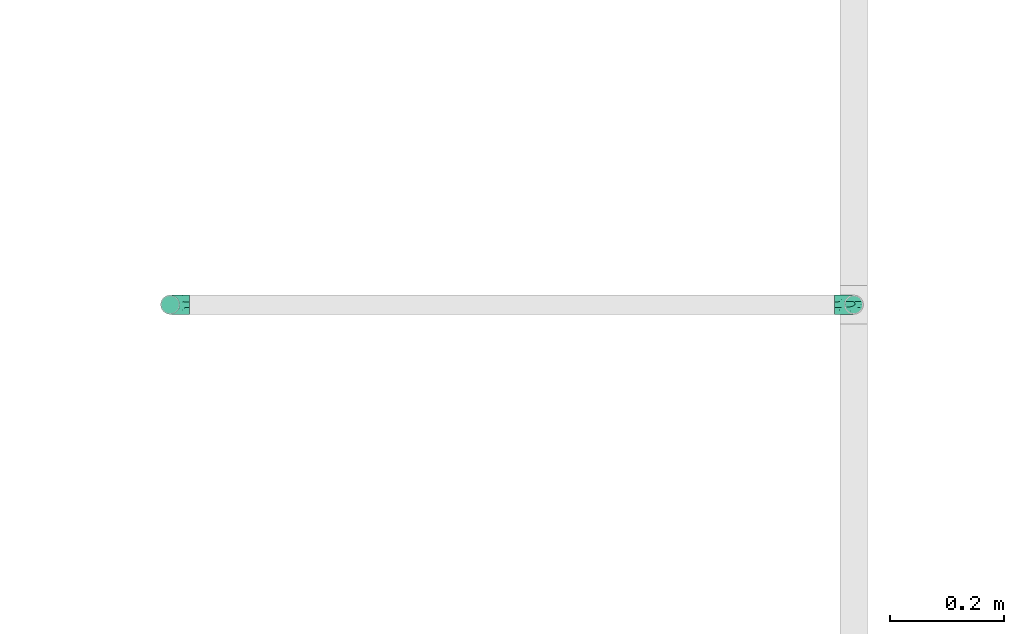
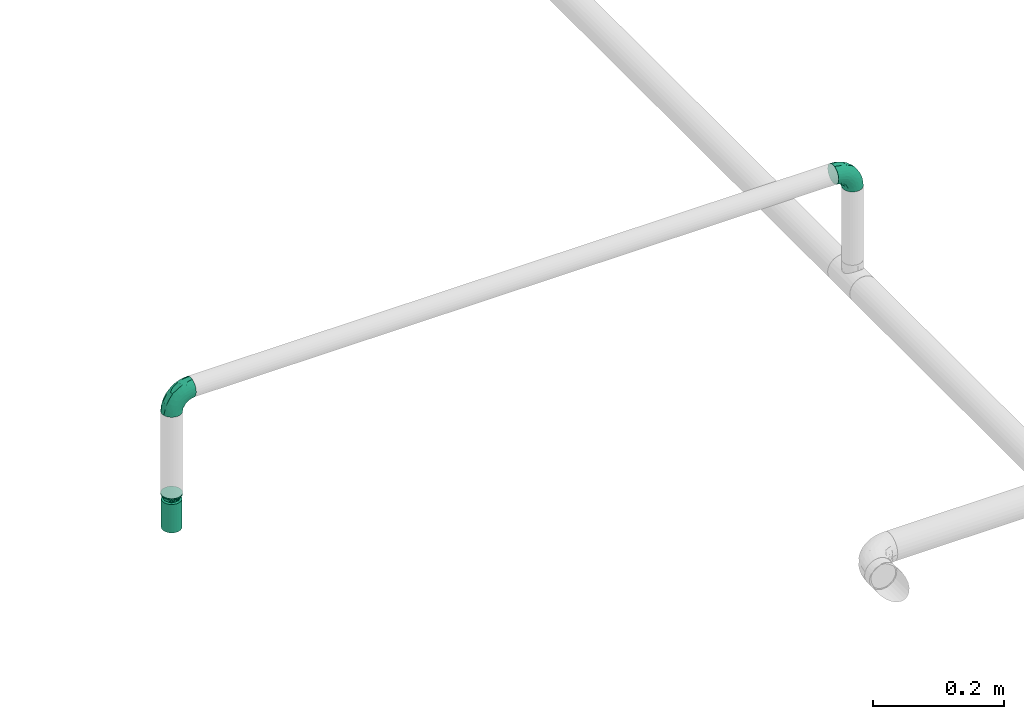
# One storey, part 50 of 157: 3 flow fittings, 1 flow terminal.
"""IFC2X3 building model written with IfcOpenShell, lengths in millimetres."""

import ifcopenshell
import ifcopenshell.guid

model = None  # the IFC model being written
_history = None  # IfcOwnerHistory: only IFC2X3 demands one
_inside = {}  # id of a spatial element -> (the spatial element, [elements in it])
_under = {}  # id of a project, library or spatial element -> (it, [spatial elements below it])
_declared = {}  # id of a project -> (the project, [libraries it declares])
_typed = {}  # id of a type object -> (the type object, [elements of that type])
_made_of = {}  # id of a material, layer set ... -> (it, [elements and type objects made of it])


def new_model(schema):
    """Start an empty IFC model of exactly this schema.

    Asked for "IFC4X3", IfcOpenShell would pick the latest addendum, in which some entities
    have other attributes; the version numbers below select the first issue.
    IFC2X3 requires an IfcOwnerHistory on every rooted entity: one is made here for all.
    """
    global model, _history
    if schema == "IFC4X3":
        model = ifcopenshell.file(schema_version=(4, 3, 0, 0))
    else:
        model = ifcopenshell.file(schema=schema)
    _inside.clear()
    _under.clear()
    _declared.clear()
    _typed.clear()
    _made_of.clear()
    _history = None
    if model.schema == "IFC2X3":
        org = make("IfcOrganization", Name="unknown")
        user = make(
            "IfcPersonAndOrganization",
            ThePerson=make("IfcPerson", FamilyName="unknown"),
            TheOrganization=org,
        )
        app = make(
            "IfcApplication",
            ApplicationDeveloper=org,
            Version="unknown",
            ApplicationFullName="unknown",
            ApplicationIdentifier="unknown",
        )
        _history = make(
            "IfcOwnerHistory",
            OwningUser=user,
            OwningApplication=app,
            ChangeAction="ADDED",
            CreationDate=0,
        )
    return model


def make(cls, **values):
    """One entity of the class cls with the attributes given. An attribute that is None is left unset."""
    return model.create_entity(
        cls, **{name: value for name, value in values.items() if value is not None}
    )


def entity(cls, *values):
    """Any entity or typed value of the class cls, its attributes in the order of the schema. None: left unset."""
    e = model.create_entity(cls)
    for i, value in enumerate(values):
        if value is not None:
            e[i] = value
    return e


def rooted(cls, **values):
    """An entity with a GlobalId (a new one), such as an element, a storey or a relation."""
    return make(cls, GlobalId=ifcopenshell.guid.new(), OwnerHistory=_history, **values)


def si_unit(unit_type, name, prefix=None):
    """IfcSIUnit, for example si_unit("LENGTHUNIT", "METRE", prefix="MILLI")."""
    return make("IfcSIUnit", UnitType=unit_type, Prefix=prefix, Name=name)


def converted_unit(unit_type, name, factor, base, dimensions=None, offset=None):
    """IfcConversionBasedUnit, such as the inch: factor (a typed value) times the base unit."""
    return make(
        "IfcConversionBasedUnit"
        if offset is None
        else "IfcConversionBasedUnitWithOffset",
        ConversionOffset=offset,
        Dimensions=None
        if dimensions is None
        else entity("IfcDimensionalExponents", *dimensions),
        UnitType=unit_type,
        Name=name,
        ConversionFactor=make(
            "IfcMeasureWithUnit", ValueComponent=factor, UnitComponent=base
        ),
    )


def derived_unit(unit_type, elements):
    """IfcDerivedUnit: a product of units, each with its exponent."""
    return make(
        "IfcDerivedUnit",
        Elements=[
            make("IfcDerivedUnitElement", Unit=unit, Exponent=power)
            for unit, power in elements
        ],
        UnitType=unit_type,
    )


def assignment(units):
    """IfcUnitAssignment: the units of a project."""
    return None if units is None else make("IfcUnitAssignment", Units=units)


def point(xyz):
    """IfcCartesianPoint."""
    return None if xyz is None else make("IfcCartesianPoint", Coordinates=xyz)


def direction(xyz):
    """IfcDirection."""
    return None if xyz is None else make("IfcDirection", DirectionRatios=xyz)


def frame(location, z_axis=None, x_axis=None):
    """IfcAxis2Placement3D, a coordinate frame: its origin and axes. An axis left out is left unset."""
    return make(
        "IfcAxis2Placement3D",
        Location=point(location),
        Axis=direction(z_axis),
        RefDirection=direction(x_axis),
    )


def origin_with_axes():
    """The frame at (0, 0, 0) with the z axis (0, 0, 1) and the x axis (1, 0, 0) written out."""
    return frame((0.0, 0.0, 0.0), z_axis=(0.0, 0.0, 1.0), x_axis=(1.0, 0.0, 0.0))


def place(relative_to, where):
    """IfcLocalPlacement: puts the frame where relative to a parent placement (None: the world)."""
    return make(
        "IfcLocalPlacement", PlacementRelTo=relative_to, RelativePlacement=where
    )


def context(
    kind, dimensions, precision=None, world=None, true_north=None, identifier=None
):
    """IfcGeometricRepresentationContext, for example the 3D "Model" context."""
    return make(
        "IfcGeometricRepresentationContext",
        ContextIdentifier=identifier,
        ContextType=kind,
        CoordinateSpaceDimension=dimensions,
        Precision=precision,
        WorldCoordinateSystem=world,
        TrueNorth=true_north,
    )


def subcontext(parent, identifier, kind, view, scale=None):
    """IfcGeometricRepresentationSubContext, for example "Body" below "Model"."""
    return make(
        "IfcGeometricRepresentationSubContext",
        ContextIdentifier=identifier,
        ContextType=kind,
        ParentContext=parent,
        TargetScale=scale,
        TargetView=view,
    )


def project(units=None, contexts=None):
    """IfcProject with its units and contexts."""
    return rooted(
        "IfcProject",
        Name="project",
        RepresentationContexts=contexts,
        UnitsInContext=assignment(units),
    )


def spatial(cls, under=None, at=None, **own):
    """A site, building, storey or space (cls), placed at a placement, below another one or the project."""
    s = rooted(cls, ObjectPlacement=at, **own)
    if under is not None:
        _under.setdefault(under.id(), (under, []))[1].append(s)
    return s


def faces_of(points, faces, orient=None, outer=None):
    """IfcFace entities. A face is a list of loops; a loop is a list of indices into points, from 0.

    orient and outer hold one flag for each loop. By default every Orientation is true, the
    first loop of a face is its IfcFaceOuterBound and the others are IfcFaceBound.
    """
    made = []
    for i, loops in enumerate(faces):
        bounds = []
        for j, loop in enumerate(loops):
            is_outer = j == 0 if outer is None else outer[i][j]
            bounds.append(
                make(
                    "IfcFaceOuterBound" if is_outer else "IfcFaceBound",
                    Bound=make("IfcPolyLoop", Polygon=[points[k] for k in loop]),
                    Orientation=True if orient is None else orient[i][j],
                )
            )
        made.append(make("IfcFace", Bounds=bounds))
    return made


def open_shell(faces, orient=None, outer=None):
    """The faces of one IfcOpenShell. surface_model builds it on its shared points."""
    return ("IfcOpenShell", faces, orient, outer)


def surface_model(cls, points, shells):
    """IfcFaceBasedSurfaceModel or IfcShellBasedSurfaceModel (cls): surfaces that need not close."""
    shared = [point(p) for p in points]
    made = [make(c, CfsFaces=faces_of(shared, fs, o, b)) for c, fs, o, b in shells]
    if cls == "IfcFaceBasedSurfaceModel":
        return make(cls, FbsmFaces=made)
    return make(cls, SbsmBoundary=made)


def shape(context_of_items, identifier, shape_type, items):
    """IfcShapeRepresentation: the items that make up one representation, for example the "Body"."""
    return make(
        "IfcShapeRepresentation",
        ContextOfItems=context_of_items,
        RepresentationIdentifier=identifier,
        RepresentationType=shape_type,
        Items=items,
    )


def source(mapping_origin, context_of_items, identifier, shape_type, items):
    """IfcRepresentationMap: a shape defined once, which mapped items show again and again."""
    return make(
        "IfcRepresentationMap",
        MappingOrigin=mapping_origin,
        MappedRepresentation=shape(context_of_items, identifier, shape_type, items),
    )


def transform(
    local_origin,
    x_axis=None,
    y_axis=None,
    z_axis=None,
    scale=None,
    scale2=None,
    scale3=None,
    uniform=True,
):
    """IfcCartesianTransformationOperator3D, or its non-uniform kind. x_axis, y_axis, z_axis: its Axis1, 2, 3."""
    if uniform:
        return make(
            "IfcCartesianTransformationOperator3D",
            Axis1=direction(x_axis),
            Axis2=direction(y_axis),
            LocalOrigin=point(local_origin),
            Scale=scale,
            Axis3=direction(z_axis),
        )
    return make(
        "IfcCartesianTransformationOperator3DnonUniform",
        Axis1=direction(x_axis),
        Axis2=direction(y_axis),
        LocalOrigin=point(local_origin),
        Scale=scale,
        Axis3=direction(z_axis),
        Scale2=scale2,
        Scale3=scale3,
    )


def mapped(mapping_source, mapping_target):
    """IfcMappedItem: shows the shape of a source again, moved by a transform."""
    return make(
        "IfcMappedItem", MappingSource=mapping_source, MappingTarget=mapping_target
    )


def made_of(thing, what):
    """Note that an element or type object is made of a material, layer set ...; save() writes the relation."""
    if what is not None:
        _made_of.setdefault(what.id(), (what, []))[1].append(thing)
    return thing


def type_object(cls, material=None, **own):
    """A type object (cls), such as IfcWallType, which elements share."""
    return made_of(rooted(cls, **own), material)


def element(
    cls,
    number,
    at=None,
    inside=None,
    cuts=None,
    type_object=None,
    material=None,
    context=None,
    identifier="Body",
    shape_type=None,
    held_by="IfcProductDefinitionShape",
    body=None,
    shapes=None,
    **own,
):
    """One element of the class cls, such as IfcWall. Its Tag is "e" and its number.

    at: its placement. inside: the storey or other place that contains it. cuts: it is an
    opening in that element (IfcRelVoidsElement). A single representation is given by context,
    identifier, shape_type and body (its items); several are given by shapes. held_by: the class
    of the entity that holds the representations. save() writes the other relations.
    """
    e = rooted(cls, Tag="e%d" % number, ObjectPlacement=at, **own)
    if body is not None:
        shapes = [shape(context, identifier, shape_type, body)]
    if shapes is not None:
        e.Representation = make(held_by, Representations=shapes)
    if inside is not None:
        _inside.setdefault(inside.id(), (inside, []))[1].append(e)
    if cuts is not None:
        rooted(
            "IfcRelVoidsElement", RelatingBuildingElement=cuts, RelatedOpeningElement=e
        )
    if type_object is not None:
        _typed.setdefault(type_object.id(), (type_object, []))[1].append(e)
    return made_of(e, material)


def aggregate(whole, parts):
    """IfcRelAggregates: a whole, such as a stair, and the parts it consists of."""
    return rooted("IfcRelAggregates", RelatingObject=whole, RelatedObjects=parts)


def save(model, path):
    """Write the relations noted so far, then the file.

    IfcRelAggregates (storeys below a building ...), IfcRelContainedInSpatialStructure (elements
    in a storey), IfcRelDefinesByType, IfcRelAssociatesMaterial and IfcRelDeclares: one each for
    every whole, place, type object, material and project.
    """
    for whole, parts in _under.values():
        aggregate(whole, parts)
    for where, things in _inside.values():
        rooted(
            "IfcRelContainedInSpatialStructure",
            RelatedElements=things,
            RelatingStructure=where,
        )
    for kind, things in _typed.values():
        rooted("IfcRelDefinesByType", RelatedObjects=things, RelatingType=kind)
    for what, things in _made_of.values():
        rooted("IfcRelAssociatesMaterial", RelatedObjects=things, RelatingMaterial=what)
    for by, libraries in _declared.values():
        rooted("IfcRelDeclares", RelatingContext=by, RelatedDefinitions=libraries)
    model.write(path)


model = new_model("IFC2X3")

# Units and contexts
model_context = context("Model", 3, precision=0.01, world=frame((0.0, 4.29681676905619e-09, 0.0)), true_north=direction((4.01073788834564e-13, 1.0)))
plan_context = context("Plan", 3, precision=0.01, world=frame((0.0, 4.29681676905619e-09, 0.0)), true_north=direction((4.01073788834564e-13, 1.0)))
body_context = subcontext(model_context, "Body", "Model", "MODEL_VIEW")
ifc_project = project(units=[converted_unit("PLANEANGLEUNIT", "DEGREE", entity("IfcPositiveLengthMeasure", 0.0174532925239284), si_unit("PLANEANGLEUNIT", "RADIAN"), dimensions=[0, 0, 0, 0, 0, 0, 0]), si_unit("AREAUNIT", "SQUARE_METRE"), si_unit("LENGTHUNIT", "METRE", prefix="MILLI"), si_unit("MASSUNIT", "GRAM", prefix="KILO"), si_unit("POWERUNIT", "WATT"), si_unit("PRESSUREUNIT", "PASCAL"), si_unit("FORCEUNIT", "NEWTON", prefix="KILO"), si_unit("ELECTRICCURRENTUNIT", "AMPERE"), si_unit("THERMODYNAMICTEMPERATUREUNIT", "DEGREE_CELSIUS"), si_unit("TIMEUNIT", "SECOND"), si_unit("VOLUMEUNIT", "CUBIC_METRE"), derived_unit("LINEARVELOCITYUNIT", [(si_unit("LENGTHUNIT", "METRE"), 1), (si_unit("TIMEUNIT", "SECOND"), -1)]), derived_unit("VOLUMETRICFLOWRATEUNIT", [(si_unit("VOLUMEUNIT", "CUBIC_METRE"), 1), (si_unit("TIMEUNIT", "SECOND"), -1)]), derived_unit("THERMALTRANSMITTANCEUNIT", [(si_unit("POWERUNIT", "WATT"), 1), (si_unit("THERMODYNAMICTEMPERATUREUNIT", "KELVIN"), -1), (si_unit("AREAUNIT", "SQUARE_METRE"), -1)])], contexts=[model_context, plan_context])

# Site, building, storey
site_placement = place(None, frame((0.0, -4.29681676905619e-09, 0.0), z_axis=(0.0, 0.0, 1.0), x_axis=(1.0, 0.0, 0.0)))
site = spatial("IfcSite", under=ifc_project, at=site_placement, CompositionType="ELEMENT")
building_placement = place(site_placement, frame((0.0, 4.29681676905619e-09, 0.0), z_axis=(0.0, 0.0, 1.0), x_axis=(1.0, 0.0, 0.0)))
building = spatial("IfcBuilding", under=site, at=building_placement, Name="mc-building", CompositionType="ELEMENT")
storey_placement = place(building_placement, frame((0.0, 0.0, 204000.0), z_axis=(0.0, 0.0, 1.0), x_axis=(1.0, 0.0, 0.0)))
storey = spatial("IfcBuildingStorey", under=building, at=storey_placement, Name="Nivå D", CompositionType="ELEMENT", Elevation=204000.0)

# Flow fittings
pipe_fitting_type_1 = type_object("IfcPipeFittingType", Name="magi_pipe_fe_elbow_short_001", PredefinedType="BEND")
shared_shape_1 = source(origin_with_axes(), body_context, "Body", "SurfaceModel", [
    surface_model("IfcShellBasedSurfaceModel", [(-33.8, 8.45, -14.63583), (-33.8, 4.37404, -16.32415), (-33.8, 11.9501, -11.9501), (-33.8, -11.9501, -11.9501), (-33.8, -14.63583, -8.45), (-33.8, -8.45, -14.63583), (-33.8, 0.0, -16.9), (-33.8, -4.37404, -16.32415), (-33.8, -4.37404, 16.32415), (-33.8, 0.0, 16.9), (-33.8, -8.45, 14.63583), (-33.8, 16.32415, -4.37404), (-33.8, 14.63583, -8.45), (-33.8, -16.32415, -4.37404), (-33.8, -16.9, 0.0), (-33.8, -16.32415, 4.37404), (-33.8, 11.9501, 11.9501), (-33.8, 14.63583, 8.45), (-33.8, 16.32415, 4.37404), (-33.8, 4.37404, 16.32415), (-33.8, 8.45, 14.63583), (-33.8, -14.63583, 8.45), (-33.8, -11.9501, 11.9501), (-33.8, 16.9, 0.0), (-11.9501, 33.8, -11.9501), (0.0, 33.8, -16.9), (-4.37404, 33.8, -16.32415), (-8.45, 33.8, -14.63583), (-14.63583, 33.8, -8.45), (-16.32415, 33.8, -4.37404), (14.63583, 33.8, -8.45), (8.45, 33.8, 14.63583), (16.32415, 33.8, -4.37404), (8.45, 33.8, -14.63583), (11.9501, 33.8, -11.9501), (4.37404, 33.8, -16.32415), (16.32415, 33.8, 4.37404), (16.9, 33.8, 0.0), (-11.9501, 33.8, 11.9501), (-16.32415, 33.8, 4.37404), (-14.63583, 33.8, 8.45), (-8.45, 33.8, 14.63583), (-4.37404, 33.8, 16.32415), (11.9501, 33.8, 11.9501), (14.63583, 33.8, 8.45), (0.0, 33.8, 16.9), (4.37404, 33.8, 16.32415), (-16.9, 33.8, 0.0), (-24.79389, -13.12945, 9.48721), (-22.19287, -9.75018, 12.59315), (-24.09897, -14.97035, 0.0), (-14.93934, -10.76256, 8.5297), (-22.46095, -14.75051, 5.27077), (14.75051, 22.46094, 5.27077), (11.9251, 13.23888, 4.33236), (13.04069, 14.39795, 0.0), (7.71387, 13.68847, 11.55891), (9.75018, 22.19287, 12.59315), (4.10169, 13.0571, 14.04018), (-24.84007, -6.39063, 15.2048), (-25.81779, -2.23879, 16.61097), (-23.66549, 2.59054, 16.87119), (-26.50418, 14.06512, 11.08152), (-24.21253, 17.66365, 7.72657), (-29.58514, 15.86957, 7.00283), (-6.17382, -7.5455, 0.0), (-13.23888, -11.9251, 4.33236), (-14.39795, -13.04069, 0.0), (-17.81434, 18.87373, 11.97104), (-6.30846, 29.15138, 15.82987), (-2.31622, 25.28002, 16.85849), (-29.23923, 10.23435, 13.77053), (-1.45439, -2.85688, 7.61475), (-0.28326, 0.34872, 10.09509), (-5.74484, -4.04709, 10.4122), (-4.41137, 11.31918, 16.59407), (-8.39727, 3.10034, 15.7812), (-1.72649, 9.1306, 15.53089), (-17.39909, 24.75344, 7.64977), (-26.19233, 20.0512, 0.0), (-28.14518, 17.29657, 4.25857), (-26.05147, 6.6281, 15.96447), (-5.87354, 16.61944, 16.86968), (-12.51807, 12.51807, 16.48937), (-10.06312, 7.38516, 16.81295), (-3.01882, 3.01882, 13.81718), (-13.0571, -4.10169, 14.04018), (-16.82553, -0.15166, 16.38038), (10.76256, 14.93934, 8.5297), (13.12945, 24.79389, 9.48721), (6.39063, 24.84007, 15.2048), (2.23879, 25.81779, 16.61097), (-13.68847, -7.71387, 11.55891), (14.97035, 24.09897, 0.0), (-7.30894, 22.89991, 16.09489), (-10.67958, 26.17414, 14.008), (-12.78295, 18.26924, 15.06066), (-13.88562, 22.45231, 12.93244), (-18.04944, 15.16501, 14.04434), (-23.11658, 20.08178, 4.02986), (-21.84989, 21.84989, 0.0), (-18.55817, 25.48277, 3.93065), (-13.95142, 26.94732, 11.03289), (-18.57098, 7.23906, 16.59756), (-16.58335, 4.14122, 16.89279), (-17.96666, 11.46709, 15.63151), (-9.84453, 17.54304, 16.18938), (0.15166, 16.82553, 16.38038), (-23.27207, 11.47201, 14.23154), (3.84842, 5.86994, 10.70473), (-8.0212, -7.54413, 7.93275), (1.00345, -2.19508, 4.57414), (5.13203, 3.01004, 5.90201), (5.24161, 1.7543, 2.53265), (8.70457, 7.04947, 3.99182), (-20.0512, 26.19233, 0.0), (8.4852, 8.76699, 7.09296), (-4.55488, -6.72064, 4.90681), (2.05031, -2.05031, 0.0), (7.5455, 6.17382, 0.0), (-26.75399, 2.1369, -16.845), (-14.61995, 24.73803, -11.27736), (-28.45274, -13.45335, -9.81895), (-26.00469, 6.63555, -15.96645), (-23.06726, 20.04573, -4.26202), (-13.80647, -4.26506, -14.17873), (-14.67501, -0.21081, -16.07388), (-6.7902, -0.2828, -13.8478), (-24.53586, 11.08096, -14.13417), (-26.72048, 14.00837, -11.05776), (10.0967, 24.44989, -12.75976), (5.83237, 21.40218, -15.03047), (6.66249, 28.54238, -15.38093), (-20.38182, 15.48705, -12.74596), (12.53268, 21.23441, -9.15363), (12.54494, 15.67504, -5.54878), (9.7522, 12.89279, -8.66343), (-15.65186, 19.64213, -13.01327), (-12.03528, 20.66498, -14.67665), (-15.61907, 15.61906, -14.83879), (-25.56551, -15.26206, 0.0), (-24.65452, -15.12934, -5.50955), (13.45335, 28.45274, -9.81895), (15.12934, 24.65452, -5.50955), (-7.35442, -8.31014, -5.65563), (-15.67504, -12.54494, -5.54878), (-24.44989, -10.0967, -12.75976), (0.16522, 0.41303, -9.71728), (-5.70658, -5.33066, -8.89288), (-5.13869, -2.37198, -11.53565), (-21.23441, -12.53268, -9.15363), (0.71146, 7.93863, -14.09382), (0.21081, 14.67501, -16.07388), (3.49291, 14.42772, -14.76381), (-24.89911, -2.13088, -16.591), (-28.54238, -6.66249, -15.38093), (-18.44386, -7.71663, -13.26957), (2.13088, 24.89911, -16.591), (-28.64342, 17.44413, -2.89318), (1.70017, -1.28722, -5.09504), (-16.57067, 26.81947, -7.36596), (-17.69055, 27.4263, -3.76405), (-12.89279, -9.7522, -8.66343), (-5.96611, 5.96611, -15.95814), (-20.53709, 20.09345, -8.28985), (-2.1369, 26.75399, -16.845), (-6.89872, 24.58781, -16.02578), (-10.60739, 26.53157, -13.98044), (-21.40218, -5.83237, -15.03047), (2.93192, 5.89627, -11.55917), (6.89393, 12.61842, -11.82233), (5.58056, 5.95325, -8.79455), (-3.99512, 18.61798, -16.89635), (8.31014, 7.35442, -5.65563), (-9.1383, 9.86148, -16.89041), (-9.99983, 16.02119, -16.39699), (-16.68576, 9.78031, -16.34199), (-27.01915, 16.61158, -7.12979), (15.26206, 25.56551, 0.0), (-18.61798, 3.99512, -16.89635), (-19.37495, 27.82495, 0.0), (-12.61842, -6.89393, -11.82233), (-18.84705, 19.14018, -10.96545)], [open_shell([[[0, 1, 2]], [[3, 4, 5]], [[6, 7, 5]], [[8, 9, 10]], [[1, 6, 2]], [[11, 12, 2]], [[4, 2, 6]], [[2, 13, 10]], [[5, 4, 6]], [[2, 4, 13]], [[14, 15, 13]], [[11, 2, 16]], [[11, 17, 18]], [[11, 16, 17]], [[19, 20, 16]], [[16, 2, 10]], [[19, 16, 10]], [[21, 22, 15]], [[22, 13, 15]], [[22, 10, 13]], [[10, 9, 19]], [[11, 18, 23]], [[24, 25, 26]], [[24, 26, 27]], [[24, 28, 29]], [[25, 24, 30]], [[31, 32, 24]], [[33, 30, 34]], [[33, 35, 25]], [[25, 30, 33]], [[32, 30, 24]], [[32, 36, 37]], [[38, 24, 29]], [[39, 40, 29]], [[40, 38, 29]], [[38, 41, 42]], [[38, 31, 24]], [[31, 38, 42]], [[36, 43, 44]], [[36, 32, 43]], [[31, 45, 46]], [[32, 31, 43]], [[42, 45, 31]], [[39, 29, 47]], [[22, 48, 49]], [[15, 14, 50]], [[51, 48, 52]], [[53, 54, 55]], [[48, 22, 21]], [[15, 52, 21]], [[56, 57, 58]], [[49, 10, 22]], [[49, 59, 10]], [[9, 60, 61]], [[62, 63, 64]], [[65, 66, 67]], [[57, 43, 31]], [[62, 68, 63]], [[42, 69, 70]], [[20, 71, 16]], [[8, 60, 9]], [[72, 73, 74]], [[75, 76, 77]], [[16, 62, 17]], [[40, 39, 78]], [[79, 23, 80]], [[64, 18, 17]], [[9, 61, 19]], [[19, 81, 20]], [[82, 83, 84]], [[74, 85, 86]], [[59, 86, 87]], [[88, 89, 57]], [[90, 31, 46]], [[44, 53, 36]], [[46, 45, 91]], [[54, 53, 88]], [[44, 89, 53]], [[92, 86, 49]], [[89, 44, 43]], [[10, 59, 8]], [[53, 55, 93]], [[93, 36, 53]], [[66, 52, 67]], [[94, 82, 70]], [[95, 96, 94]], [[97, 98, 96]], [[79, 99, 100]], [[41, 38, 95]], [[101, 100, 99]], [[68, 78, 63]], [[42, 41, 69]], [[23, 18, 80]], [[95, 94, 69]], [[78, 101, 99]], [[38, 102, 95]], [[70, 45, 42]], [[97, 95, 102]], [[15, 50, 52]], [[90, 57, 31]], [[57, 90, 58]], [[81, 19, 61]], [[103, 104, 84]], [[105, 81, 103]], [[38, 40, 102]], [[106, 96, 83]], [[94, 106, 82]], [[91, 70, 107]], [[71, 62, 16]], [[62, 108, 98]], [[86, 59, 49]], [[67, 52, 50]], [[60, 59, 87]], [[92, 49, 51]], [[86, 85, 76]], [[91, 90, 46]], [[37, 36, 93]], [[107, 77, 58]], [[107, 58, 90]], [[58, 85, 109]], [[110, 74, 92]], [[72, 74, 110]], [[66, 51, 52]], [[72, 111, 112]], [[113, 114, 112]], [[56, 88, 57]], [[52, 48, 21]], [[49, 48, 51]], [[57, 89, 43]], [[53, 89, 88]], [[103, 81, 61]], [[71, 81, 108]], [[18, 64, 80]], [[63, 78, 99]], [[47, 115, 101]], [[101, 115, 100]], [[40, 78, 102]], [[68, 102, 78]], [[97, 96, 95]], [[105, 98, 108]], [[103, 84, 83]], [[107, 70, 82]], [[76, 84, 87]], [[82, 84, 75]], [[70, 91, 45]], [[90, 91, 107]], [[59, 60, 8]], [[61, 60, 87]], [[73, 85, 74]], [[109, 112, 116]], [[103, 61, 104]], [[105, 103, 83]], [[96, 105, 83]], [[81, 105, 108]], [[96, 98, 105]], [[62, 98, 68]], [[61, 87, 104]], [[87, 84, 104]], [[86, 76, 87]], [[77, 76, 85]], [[58, 77, 85]], [[75, 77, 107]], [[82, 75, 107]], [[76, 75, 84]], [[81, 71, 20]], [[62, 71, 108]], [[95, 69, 41]], [[70, 69, 94]], [[62, 64, 17]], [[80, 63, 99]], [[63, 80, 64]], [[80, 99, 79]], [[66, 65, 117]], [[110, 66, 117]], [[112, 114, 116]], [[118, 117, 65]], [[110, 92, 51]], [[112, 111, 113]], [[119, 55, 54]], [[74, 86, 92]], [[58, 109, 56]], [[116, 56, 109]], [[66, 110, 51]], [[72, 110, 117]], [[111, 72, 117]], [[73, 112, 109]], [[117, 118, 111]], [[113, 111, 118]], [[118, 119, 113]], [[114, 119, 54]], [[119, 114, 113]], [[116, 54, 88]], [[54, 116, 114]], [[116, 88, 56]], [[112, 73, 72]], [[85, 73, 109]], [[78, 39, 101]], [[47, 101, 39]], [[102, 68, 97]], [[97, 68, 98]], [[82, 106, 83]], [[94, 96, 106]], [[1, 120, 6]], [[28, 24, 121]], [[3, 122, 4]], [[0, 123, 1]], [[100, 124, 79]], [[125, 126, 127]], [[128, 2, 129]], [[130, 131, 132]], [[128, 129, 133]], [[134, 135, 136]], [[137, 138, 139]], [[128, 0, 2]], [[67, 140, 141]], [[134, 142, 143]], [[141, 13, 4]], [[144, 65, 145]], [[146, 3, 5]], [[147, 148, 149]], [[145, 141, 150]], [[151, 152, 153]], [[154, 7, 6]], [[5, 155, 146]], [[150, 146, 156]], [[155, 5, 7]], [[143, 135, 134]], [[35, 157, 25]], [[23, 79, 158]], [[148, 159, 144]], [[160, 161, 29]], [[145, 162, 144]], [[163, 152, 151]], [[29, 28, 160]], [[121, 164, 160]], [[33, 34, 130]], [[25, 165, 26]], [[26, 165, 166]], [[142, 34, 30]], [[24, 27, 167]], [[124, 161, 164]], [[157, 35, 132]], [[155, 154, 168]], [[123, 0, 128]], [[169, 170, 171]], [[172, 157, 152]], [[26, 166, 27]], [[132, 35, 33]], [[142, 130, 34]], [[168, 154, 126]], [[136, 135, 173]], [[133, 137, 139]], [[2, 12, 129]], [[170, 131, 130]], [[30, 32, 143]], [[172, 174, 175]], [[176, 123, 128]], [[158, 177, 11]], [[135, 55, 119]], [[167, 27, 166]], [[175, 166, 172]], [[137, 167, 138]], [[122, 141, 4]], [[140, 14, 13]], [[32, 37, 178]], [[170, 130, 134]], [[152, 157, 131]], [[165, 157, 172]], [[153, 170, 151]], [[152, 163, 174]], [[168, 125, 156]], [[122, 146, 150]], [[120, 154, 6]], [[179, 174, 126]], [[179, 126, 154]], [[126, 163, 127]], [[162, 145, 150]], [[140, 13, 141]], [[32, 178, 143]], [[55, 143, 178]], [[177, 129, 12]], [[128, 133, 139]], [[176, 128, 139]], [[120, 123, 179]], [[121, 160, 28]], [[161, 100, 180]], [[166, 175, 138]], [[121, 24, 167]], [[161, 47, 29]], [[79, 124, 158]], [[124, 164, 177]], [[161, 124, 100]], [[136, 171, 170]], [[127, 163, 151]], [[147, 171, 159]], [[148, 144, 162]], [[127, 151, 169]], [[127, 181, 125]], [[129, 177, 164]], [[12, 11, 177]], [[159, 65, 144]], [[67, 141, 145]], [[143, 55, 135]], [[135, 119, 173]], [[123, 120, 1]], [[154, 120, 179]], [[157, 165, 25]], [[166, 165, 172]], [[172, 152, 174]], [[176, 139, 175]], [[126, 174, 163]], [[176, 174, 179]], [[174, 176, 175]], [[123, 176, 179]], [[150, 181, 162]], [[127, 149, 181]], [[181, 148, 162]], [[159, 148, 147]], [[171, 136, 173]], [[170, 134, 136]], [[159, 171, 173]], [[171, 147, 169]], [[169, 147, 149]], [[151, 170, 169]], [[164, 182, 129]], [[182, 121, 137]], [[181, 149, 148]], [[169, 149, 127]], [[182, 137, 133]], [[167, 137, 121]], [[166, 138, 167]], [[175, 139, 138]], [[129, 182, 133]], [[121, 182, 164]], [[161, 160, 164]], [[47, 161, 180]], [[177, 158, 124]], [[23, 158, 11]], [[130, 132, 33]], [[157, 132, 131]], [[143, 142, 30]], [[130, 142, 134]], [[154, 155, 7]], [[146, 155, 168]], [[146, 122, 3]], [[141, 122, 150]], [[152, 131, 153]], [[159, 119, 118]], [[67, 145, 65]], [[170, 153, 131]], [[119, 159, 173]], [[159, 118, 65]], [[156, 125, 181]], [[126, 125, 168]], [[150, 156, 181]], [[168, 156, 146]]])]),
])
for number, where, z_axis, x_axis, name in (
    (1, (529900.0, 408200.0, 2896.95199999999), (0.0, 1.0, 0.0), (0.0, 0.0, 1.0), "magi_pipe_fe_elbow_short_001"),
    (2, (531100.55939, 408200.0, 2896.95199999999), (0.0, -1.0, 0.0), (0.0, 0.0, 1.0), "magi_pipe_fe_elbow_short_001"),
):
    element("IfcFlowFitting", number, at=place(storey_placement, frame(where, z_axis=z_axis, x_axis=x_axis)), inside=storey, type_object=pipe_fitting_type_1, Name=name, context=body_context, shape_type="MappedRepresentation", body=[
        mapped(shared_shape_1, transform((0.0, 0.0, 0.0), scale=1.0)),
    ])
pipe_fitting_type_2 = type_object("IfcPipeFittingType", Name="magi_pipe_fe_reducer_centric_short_NOR", PredefinedType="TRANSITION")
shared_shape_2 = source(origin_with_axes(), body_context, "Body", "SurfaceModel", [
    surface_model("IfcShellBasedSurfaceModel", [(-2.0, -7.56604, -7.56604), (-2.0, -10.33541, -2.76936), (-2.0, -5.35, -9.26647), (-2.0, 5.35, -9.26647), (-2.0, 10.33541, -2.76936), (-2.0, 7.56604, -7.56604), (12.4, 11.9501, 11.9501), (12.4, 0.0, 16.9), (12.4, 11.9501, -11.9501), (12.4, 16.9, 0.0), (0.0, -10.7, 0.0), (0.0, -5.35, 9.26647), (0.0, -5.35, -9.26647), (0.0, 10.7, 0.0), (12.4, 15.66253, -2.98753), (12.4, 8.96258, -13.18758), (0.0, 6.6875, -6.94985), (12.4, -15.66253, -2.98753), (12.4, -16.9, 0.0), (12.4, 5.97505, -14.42505), (0.0, 5.35, -9.26647), (12.4, 14.42505, -5.97505), (0.0, 8.025, -4.63324), (0.0, 9.3625, -2.31662), (0.0, -9.3625, -2.31662), (0.0, -8.025, -4.63324), (12.4, -14.42505, -5.97505), (12.4, 13.18758, -8.96258), (12.4, -13.18758, -8.96258), (12.4, -11.9501, -11.9501), (0.0, -6.6875, -6.94985), (12.4, -8.96258, -13.18758), (12.4, -5.97505, -14.42505), (12.4, -15.66253, 2.98753), (12.4, -8.96258, 13.18758), (0.0, -6.6875, 6.94985), (12.4, -11.9501, 11.9501), (12.4, 15.66253, 2.98753), (12.4, -5.97505, 14.42505), (12.4, -14.42505, 5.97505), (0.0, -8.025, 4.63324), (0.0, -9.3625, 2.31662), (0.0, 9.3625, 2.31662), (0.0, 8.025, 4.63324), (12.4, 14.42505, 5.97505), (12.4, -13.18758, 8.96258), (12.4, 13.18758, 8.96258), (0.0, 6.6875, 6.94985), (12.4, 8.96258, 13.18758), (0.0, 5.35, 9.26647), (12.4, 5.97505, 14.42505), (14.4, 4.37404, -16.32415), (14.4, 8.45, -14.63583), (14.4, 11.9501, -11.9501), (14.4, -8.45, -14.63583), (14.4, 16.32415, -4.37404), (14.4, 16.32415, 4.37404), (14.4, 14.63583, -8.45), (14.4, 0.0, -16.9), (14.4, -4.37404, -16.32415), (14.4, -11.9501, -11.9501), (14.4, -16.32415, -4.37404), (14.4, -14.63583, -8.45), (14.4, -16.32415, 4.37404), (14.4, 16.9, 0.0), (14.4, 14.63583, 8.45), (14.4, 11.9501, 11.9501), (14.4, 4.37404, 16.32415), (14.4, 8.45, 14.63583), (14.4, 0.0, 16.9), (14.4, -14.63583, 8.45), (14.4, -16.9, 0.0), (14.4, -8.45, 14.63583), (14.4, -11.9501, 11.9501), (14.4, -4.37404, 16.32415), (12.4, 4.37404, 16.32415), (12.4, -14.63583, 8.45), (12.4, 16.32415, 4.37404), (12.4, 8.45, 14.63583), (12.4, 14.63583, 8.45), (12.4, -8.45, 14.63583), (12.4, -4.37404, 16.32415), (12.4, -16.32415, 4.37404), (12.4, -16.32415, -4.37404), (12.4, -8.45, -14.63583), (12.4, 16.32415, -4.37404), (12.4, 14.63583, -8.45), (12.4, 8.45, -14.63583), (12.4, 4.37404, -16.32415), (12.4, 0.0, -16.9), (12.4, -14.63583, -8.45), (12.4, -4.37404, -16.32415), (-2.0, 2.76936, 10.33541), (-2.0, 0.0, 10.7), (-2.0, 5.35, 9.26647), (-2.0, 7.56604, 7.56604), (-2.0, 9.26647, 5.35), (-2.0, 10.33541, 2.76936), (-2.0, -10.33541, 2.76936), (-2.0, -2.76936, 10.33541), (-2.0, -7.56604, 7.56604), (-2.0, -5.35, 9.26647), (-2.0, -9.26647, 5.35), (-2.0, -10.7, 0.0), (-2.0, 9.26647, -5.35), (-2.0, 2.76936, -10.33541), (-2.0, -9.26647, -5.35), (-2.0, 0.0, -10.7), (-2.0, -2.76936, -10.33541), (-2.0, 10.7, 0.0), (0.0, 0.0, -10.7), (0.0, 2.76936, -10.33541), (0.0, 10.33541, -2.76936), (0.0, 7.56604, -7.56604), (0.0, -10.33541, -2.76936), (0.0, 9.26647, -5.35), (0.0, 0.0, 10.7), (0.0, -2.76936, -10.33541), (0.0, -7.56604, -7.56604), (0.0, -9.26647, -5.35), (0.0, 10.33541, 2.76936), (0.0, 9.26647, 5.35), (0.0, 7.56604, 7.56604), (0.0, 2.76936, 10.33541), (0.0, -7.56604, 7.56604), (0.0, -10.33541, 2.76936), (0.0, -9.26647, 5.35), (0.0, -2.76936, 10.33541), (0.0, 2.675, -9.26647), (0.0, -2.675, -9.26647), (12.4, 2.98753, -15.66253), (0.0, 0.0, -9.26647), (12.4, -2.98753, -15.66253), (0.0, -2.675, 9.26647), (0.0, 2.675, 9.26647), (12.4, -2.98753, 15.66253), (0.0, 0.0, 9.26647), (12.4, 2.98753, 15.66253)], [open_shell([[[0, 1, 2]], [[3, 4, 5]], [[6, 7, 8]], [[8, 9, 6]], [[10, 11, 12]], [[13, 9, 14]], [[15, 16, 8]], [[17, 18, 10]], [[15, 19, 20]], [[21, 22, 23]], [[24, 25, 26]], [[22, 21, 27]], [[28, 26, 25]], [[29, 30, 31]], [[12, 32, 31]], [[10, 18, 33]], [[34, 35, 36]], [[37, 9, 13]], [[34, 38, 11]], [[39, 40, 41]], [[42, 43, 44]], [[40, 39, 45]], [[46, 44, 43]], [[6, 47, 48]], [[49, 50, 48]], [[51, 52, 53]], [[54, 51, 53]], [[53, 55, 56]], [[55, 53, 57]], [[53, 56, 54]], [[58, 54, 59]], [[58, 51, 54]], [[60, 61, 62]], [[61, 60, 54]], [[54, 63, 61]], [[56, 55, 64]], [[56, 65, 66]], [[56, 66, 67]], [[67, 63, 54]], [[67, 66, 68]], [[63, 67, 69]], [[69, 70, 63]], [[71, 61, 63]], [[70, 72, 73]], [[70, 69, 72]], [[72, 69, 74]], [[54, 56, 67]], [[75, 76, 7]], [[77, 75, 78]], [[6, 79, 77]], [[6, 77, 78]], [[76, 75, 77]], [[80, 76, 36]], [[80, 81, 7]], [[7, 76, 80]], [[82, 76, 77]], [[82, 83, 18]], [[82, 77, 84]], [[77, 85, 8]], [[8, 85, 86]], [[8, 87, 88]], [[84, 77, 8]], [[88, 89, 8]], [[83, 29, 90]], [[29, 83, 84]], [[84, 89, 91]], [[83, 82, 84]], [[8, 89, 84]], [[85, 77, 9]], [[83, 61, 18]], [[90, 62, 83]], [[54, 29, 84]], [[90, 29, 60]], [[59, 84, 91]], [[83, 62, 61]], [[61, 71, 18]], [[59, 54, 84]], [[60, 29, 54]], [[60, 62, 90]], [[58, 59, 91]], [[91, 89, 58]], [[88, 51, 89]], [[87, 52, 88]], [[57, 8, 86]], [[87, 8, 53]], [[55, 86, 85]], [[87, 53, 52]], [[52, 51, 88]], [[64, 55, 85]], [[57, 86, 55]], [[57, 53, 8]], [[9, 64, 85]], [[89, 51, 58]], [[77, 56, 9]], [[79, 65, 77]], [[68, 6, 78]], [[79, 6, 66]], [[67, 78, 75]], [[77, 65, 56]], [[56, 64, 9]], [[67, 68, 78]], [[66, 6, 68]], [[66, 65, 79]], [[69, 67, 75]], [[75, 7, 69]], [[81, 74, 7]], [[80, 72, 81]], [[70, 36, 76]], [[80, 36, 73]], [[63, 76, 82]], [[80, 73, 72]], [[72, 74, 81]], [[71, 63, 82]], [[70, 76, 63]], [[70, 73, 36]], [[18, 71, 82]], [[7, 74, 69]], [[92, 1, 93]], [[94, 1, 92]], [[95, 96, 97]], [[95, 97, 94]], [[98, 93, 1]], [[99, 100, 101]], [[99, 93, 100]], [[100, 98, 102]], [[93, 98, 100]], [[98, 1, 103]], [[94, 97, 1]], [[1, 97, 4]], [[5, 4, 104]], [[4, 3, 1]], [[105, 1, 3]], [[1, 0, 106]], [[2, 107, 108]], [[2, 1, 105]], [[105, 107, 2]], [[4, 97, 109]], [[20, 110, 111]], [[112, 20, 113]], [[114, 20, 112]], [[112, 113, 115]], [[116, 114, 112]], [[110, 12, 117]], [[110, 20, 12]], [[118, 114, 119]], [[114, 118, 12]], [[20, 114, 12]], [[112, 13, 120]], [[120, 121, 122]], [[120, 122, 123]], [[116, 112, 123]], [[123, 122, 49]], [[116, 124, 114]], [[125, 124, 126]], [[10, 114, 125]], [[124, 127, 11]], [[125, 114, 124]], [[127, 124, 116]], [[123, 112, 120]], [[1, 114, 103]], [[106, 119, 1]], [[12, 0, 2]], [[106, 0, 118]], [[117, 2, 108]], [[1, 119, 114]], [[114, 10, 103]], [[117, 12, 2]], [[118, 0, 12]], [[118, 119, 106]], [[110, 117, 108]], [[108, 107, 110]], [[105, 111, 107]], [[3, 20, 105]], [[115, 5, 104]], [[3, 5, 113]], [[112, 104, 4]], [[3, 113, 20]], [[20, 111, 105]], [[13, 112, 4]], [[115, 104, 112]], [[115, 113, 5]], [[109, 13, 4]], [[107, 111, 110]], [[97, 120, 109]], [[96, 121, 97]], [[49, 95, 94]], [[96, 95, 122]], [[123, 94, 92]], [[97, 121, 120]], [[120, 13, 109]], [[123, 49, 94]], [[122, 95, 49]], [[122, 121, 96]], [[116, 123, 92]], [[92, 93, 116]], [[99, 127, 93]], [[101, 11, 99]], [[126, 100, 102]], [[101, 100, 124]], [[125, 102, 98]], [[101, 124, 11]], [[11, 127, 99]], [[10, 125, 98]], [[126, 102, 125]], [[126, 124, 100]], [[103, 10, 98]], [[93, 127, 116]], [[18, 7, 36]], [[18, 29, 8]], [[89, 8, 29]], [[18, 8, 7]], [[13, 11, 49]], [[13, 20, 12]], [[13, 12, 11]], [[24, 26, 17]], [[10, 24, 17]], [[16, 15, 20]], [[30, 12, 31]], [[23, 14, 21]], [[19, 128, 20]], [[27, 8, 16]], [[32, 12, 129]], [[30, 28, 25]], [[130, 131, 128]], [[129, 132, 32]], [[16, 22, 27]], [[13, 14, 23]], [[128, 19, 130]], [[130, 89, 131]], [[131, 132, 129]], [[89, 132, 131]], [[28, 30, 29]], [[42, 44, 37]], [[13, 42, 37]], [[35, 34, 11]], [[47, 49, 48]], [[41, 33, 39]], [[38, 133, 11]], [[45, 36, 35]], [[50, 49, 134]], [[47, 46, 43]], [[135, 136, 133]], [[134, 137, 50]], [[35, 40, 45]], [[10, 33, 41]], [[133, 38, 135]], [[135, 7, 136]], [[136, 137, 134]], [[7, 137, 136]], [[46, 47, 6]]])]),
])
flow_fitting_placement = place(storey_placement, frame((529900.0, 408200.0, 2696.95199999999), z_axis=(0.0, -1.0, 0.0), x_axis=(0.0, 0.0, 1.0)))
element("IfcFlowFitting", 3, at=flow_fitting_placement, inside=storey, type_object=pipe_fitting_type_2, Name="magi_pipe_fe_reducer_centric_short_NOR", context=body_context, shape_type="MappedRepresentation", body=[
    mapped(shared_shape_2, transform((0.0, 0.0, 0.0), scale=1.0)),
])

# Flow terminal
fire_suppression_terminal_type = type_object("IfcFireSuppressionTerminalType", Name="SP-15-K80-68DGR-STD-HIMLING", PredefinedType="NOTDEFINED")
shared_shape_3 = source(origin_with_axes(), body_context, "Body", "SurfaceModel", [
    surface_model("IfcShellBasedSurfaceModel", [(4.1411, -15.45481, 53.0), (8.0, -13.85641, 53.0), (11.31371, -11.31371, 53.0), (-8.0, -13.85641, 53.0), (15.45481, -4.1411, 53.0), (16.0, 0.0, 53.0), (13.85641, -8.0, 53.0), (0.0, -16.0, 53.0), (-4.1411, -15.45481, 53.0), (-13.85641, -8.0, 53.0), (-11.31371, -11.31371, 53.0), (-15.45481, -4.1411, 53.0), (15.45481, 4.1411, 53.0), (13.85641, 8.0, 53.0), (11.31371, 11.31371, 53.0), (-4.1411, 15.45481, 53.0), (8.0, 13.85641, 53.0), (4.1411, 15.45481, 53.0), (0.0, 16.0, 53.0), (-13.85641, 8.0, 53.0), (-15.45481, 4.1411, 53.0), (-16.0, 0.0, 53.0), (-11.31371, 11.31371, 53.0), (-8.0, 13.85641, 53.0), (0.0, 16.0, 0.0), (4.1411, 15.45481, 0.0), (8.0, 13.85641, 0.0), (-4.1411, 15.45481, 0.0), (11.31371, 11.31371, 0.0), (13.85641, 8.0, 0.0), (15.45481, 4.1411, 0.0), (-15.45481, -4.1411, 0.0), (-11.31371, 11.31371, 0.0), (-8.0, 13.85641, 0.0), (-13.85641, 8.0, 0.0), (-15.45481, 4.1411, 0.0), (-16.0, 0.0, 0.0), (4.1411, -15.45481, 0.0), (16.0, 0.0, 0.0), (15.45481, -4.1411, 0.0), (13.85641, -8.0, 0.0), (11.31371, -11.31371, 0.0), (8.0, -13.85641, 0.0), (-8.0, -13.85641, 0.0), (-13.85641, -8.0, 0.0), (-11.31371, -11.31371, 0.0), (0.0, -16.0, 0.0), (-4.1411, -15.45481, 0.0)], [open_shell([[[0, 1, 2]], [[3, 0, 2]], [[4, 5, 2]], [[4, 2, 6]], [[3, 2, 5]], [[7, 3, 8]], [[7, 0, 3]], [[3, 9, 10]], [[9, 3, 11]], [[5, 11, 3]], [[5, 12, 11]], [[12, 13, 14]], [[15, 12, 14]], [[16, 17, 18]], [[14, 16, 15]], [[18, 15, 16]], [[11, 19, 20]], [[21, 11, 20]], [[22, 15, 23]], [[15, 22, 19]], [[19, 11, 15]], [[11, 12, 15]], [[24, 25, 26]], [[27, 24, 26]], [[28, 29, 30]], [[27, 26, 28]], [[27, 28, 31]], [[27, 32, 33]], [[32, 27, 34]], [[34, 31, 35]], [[31, 34, 27]], [[35, 31, 36]], [[28, 30, 31]], [[37, 38, 39]], [[37, 39, 40]], [[41, 42, 37]], [[41, 37, 40]], [[38, 37, 43]], [[44, 43, 45]], [[43, 44, 31]], [[43, 46, 47]], [[43, 31, 38]], [[37, 46, 43]], [[38, 31, 30]], [[11, 31, 44]], [[45, 9, 44]], [[3, 43, 47]], [[45, 43, 10]], [[8, 47, 46]], [[31, 21, 36]], [[31, 11, 21]], [[44, 9, 11]], [[45, 10, 9]], [[3, 10, 43]], [[47, 8, 3]], [[46, 7, 8]], [[0, 37, 42]], [[41, 1, 42]], [[6, 40, 39]], [[41, 40, 2]], [[4, 39, 38]], [[37, 0, 7]], [[42, 1, 0]], [[41, 2, 1]], [[40, 6, 2]], [[4, 6, 39]], [[38, 5, 4]], [[37, 7, 46]], [[12, 38, 30]], [[13, 30, 29]], [[16, 26, 25]], [[17, 25, 24]], [[30, 13, 12]], [[12, 5, 38]], [[28, 14, 13]], [[28, 26, 14]], [[14, 26, 16]], [[25, 17, 16]], [[28, 13, 29]], [[24, 18, 17]], [[15, 27, 33]], [[32, 23, 33]], [[19, 34, 35]], [[32, 34, 22]], [[20, 35, 36]], [[27, 15, 18]], [[33, 23, 15]], [[32, 22, 23]], [[34, 19, 22]], [[20, 19, 35]], [[36, 21, 20]], [[27, 18, 24]]])]),
])
flow_terminal_placement = place(storey_placement, frame((529900.0, 408200.0, 2700.0), z_axis=(0.0, 0.0, -1.0), x_axis=(1.0, 0.0, 0.0)))
element("IfcFlowTerminal", 4, at=flow_terminal_placement, inside=storey, type_object=fire_suppression_terminal_type, Name="SP-15-K80-68DGR-STD-HIMLING", context=body_context, shape_type="MappedRepresentation", body=[
    mapped(shared_shape_3, transform((0.0, 0.0, 0.0), scale=1.0)),
])

save(model, "model.ifc")
